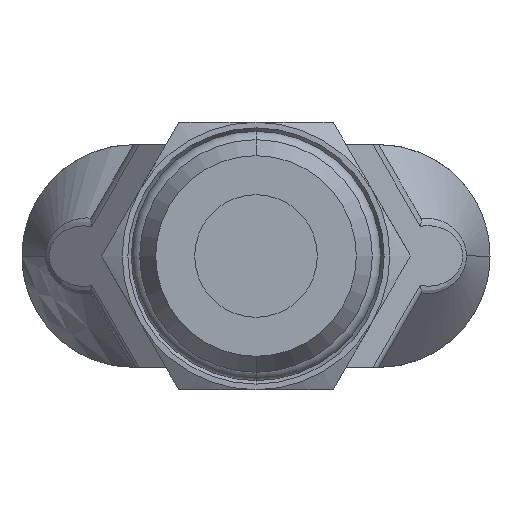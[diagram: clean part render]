
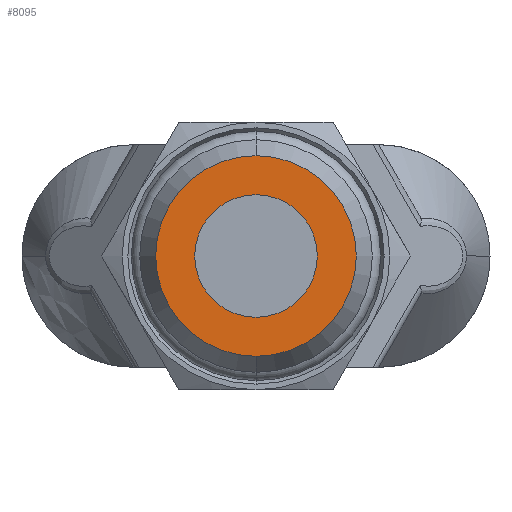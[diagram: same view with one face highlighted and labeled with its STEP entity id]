
A CAD part, front view. The second image highlights one B-rep face of the part: STEP entity #8095.
In plain terms, the highlighted planar face has unit normal (0, -1, 0).
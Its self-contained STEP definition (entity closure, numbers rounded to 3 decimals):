
#1460 = EDGE_CURVE ( 'NONE', #6877, #6878, #8591, .T. ) ;
#1483 = EDGE_CURVE ( 'NONE', #6890, #8218, #8594, .T. ) ;
#1498 = AXIS2_PLACEMENT_3D ( 'NONE', #19729, #19728, #19727 ) ;
#1499 = AXIS2_PLACEMENT_3D ( 'NONE', #19592, #19589, #19588 ) ;
#3916 = AXIS2_PLACEMENT_3D ( 'NONE', #18850, #18851, #18852 ) ;
#5912 = CIRCLE ( 'NONE', #20067, 9. ) ;
#5974 = CIRCLE ( 'NONE', #20103, 5.5 ) ;
#6877 = VERTEX_POINT ( 'NONE', #12954 ) ;
#6878 = VERTEX_POINT ( 'NONE', #12955 ) ;
#6890 = VERTEX_POINT ( 'NONE', #12967 ) ;
#7313 = CARTESIAN_POINT ( 'NONE',  ( 0.43, -37.857, 0. ) ) ;
#7314 = DIRECTION ( 'NONE',  ( 0., -1., 0. ) ) ;
#7315 = DIRECTION ( 'NONE',  ( 0., 0., -1. ) ) ;
#8095 = ADVANCED_FACE ( 'NONE', ( #9621, #9625 ), #18843, .T. ) ;
#8191 = ORIENTED_EDGE ( 'NONE', *, *, #1460, .F. ) ;
#8192 = ORIENTED_EDGE ( 'NONE', *, *, #11582, .F. ) ;
#8193 = ORIENTED_EDGE ( 'NONE', *, *, #1483, .T. ) ;
#8194 = ORIENTED_EDGE ( 'NONE', *, *, #10515, .T. ) ;
#8218 = VERTEX_POINT ( 'NONE', #11006 ) ;
#8591 = CIRCLE ( 'NONE', #1498, 5.5 ) ;
#8594 = CIRCLE ( 'NONE', #1499, 9. ) ;
#9621 = FACE_BOUND ( 'NONE', #19259, .T. ) ;
#9625 = FACE_OUTER_BOUND ( 'NONE', #19267, .T. ) ;
#10515 = EDGE_CURVE ( 'NONE', #8218, #6890, #5912, .T. ) ;
#11006 = CARTESIAN_POINT ( 'NONE',  ( 0.43, -37.857, -9. ) ) ;
#11582 = EDGE_CURVE ( 'NONE', #6878, #6877, #5974, .T. ) ;
#12954 = CARTESIAN_POINT ( 'NONE',  ( 0.43, -37.857, -5.5 ) ) ;
#12955 = CARTESIAN_POINT ( 'NONE',  ( 0.43, -37.857, 5.5 ) ) ;
#12967 = CARTESIAN_POINT ( 'NONE',  ( 0.43, -37.857, 9. ) ) ;
#14304 = CARTESIAN_POINT ( 'NONE',  ( 0.43, -37.857, 0. ) ) ;
#14305 = DIRECTION ( 'NONE',  ( 0., -1., 0. ) ) ;
#14306 = DIRECTION ( 'NONE',  ( 0., 0., -1. ) ) ;
#18843 = PLANE ( 'NONE',  #3916 ) ;
#18850 = CARTESIAN_POINT ( 'NONE',  ( 0.43, -37.857, 0. ) ) ;
#18851 = DIRECTION ( 'NONE',  ( 0., -1., 0. ) ) ;
#18852 = DIRECTION ( 'NONE',  ( 0., 0., -1. ) ) ;
#19259 = EDGE_LOOP ( 'NONE', ( #8191, #8192 ) ) ;
#19267 = EDGE_LOOP ( 'NONE', ( #8193, #8194 ) ) ;
#19588 = DIRECTION ( 'NONE',  ( 0., 0., -1. ) ) ;
#19589 = DIRECTION ( 'NONE',  ( 0., -1., 0. ) ) ;
#19592 = CARTESIAN_POINT ( 'NONE',  ( 0.43, -37.857, 0. ) ) ;
#19727 = DIRECTION ( 'NONE',  ( 0., 0., -1. ) ) ;
#19728 = DIRECTION ( 'NONE',  ( 0., -1., 0. ) ) ;
#19729 = CARTESIAN_POINT ( 'NONE',  ( 0.43, -37.857, 0. ) ) ;
#20067 = AXIS2_PLACEMENT_3D ( 'NONE', #14304, #14305, #14306 ) ;
#20103 = AXIS2_PLACEMENT_3D ( 'NONE', #7313, #7314, #7315 ) ;
